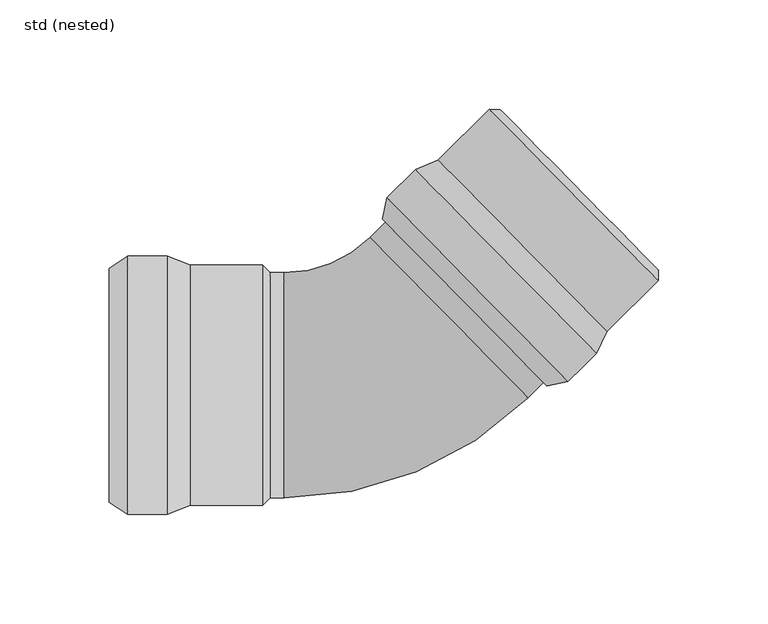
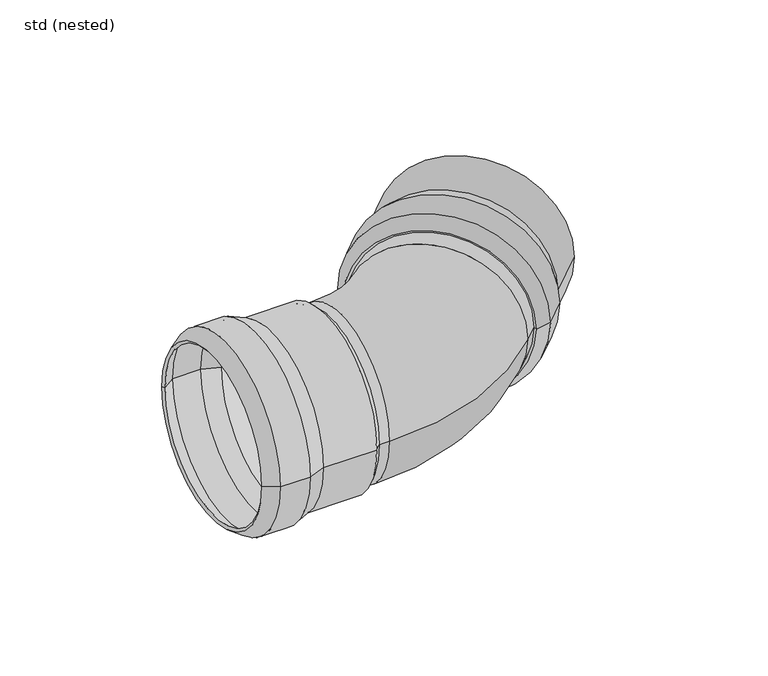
"""IFC4 building model written with IfcOpenShell, lengths in millimetres: pipe fitting geometry, ZZZ_do not use_PIF_ST_UN_GM-X pipe bend_ACO : std (nested)."""

from ifc_helpers import new_model, si_unit, point, frame, origin, place, context, project, spatial, polyline, circle_curve, ellipse_curve, trimmed, source, transform, mapped, element, save
from ifc_brep_helpers import plane_surface, cylinder_surface, revolved_surface, advanced_brep


def std_nested_e5a5243e(model_context):
    return source(origin(), model_context, "Body", "AdvancedBrep", [
        advanced_brep(
        [(15.9421163, 98.5246108, 0.0), (98.7526335, 14.4626202, 0.0), (85.78714, 1.6901506, 0.0), (2.9766229, 85.7521412, 0.0), (26.2293449, 103.0437842, 0.0), (103.4255897, 24.6809117, 0.0), (76.0144928, -0.2165133, 0.0), (0.9236002, 76.00919, 0.0), (49.7382067, 126.2026577, 0.0), (126.9344514, 47.8397851, 0.0), (54.6878149, 126.1655377, 0.0), (126.9715714, 52.7893934, 0.0), (52.1944508, 123.7092935, 0.0), (124.4782073, 50.3331492, 0.0), (27.370717, 101.3607122, 0.0), (101.7598256, 25.8473987, 0.0), (125.5308833, 49.2645646, 0.0), (51.1417747, 124.7778782, 0.0), (17.0834885, 96.8415388, 0.0), (97.0868694, 15.6291072, 0.0), (4.8094141, 84.7501948, 0.0), (84.8127951, 3.5377632, 0.0), (2.8806238, 75.5968084, 0.0), (75.6315097, 1.7464752, 0.0)],
        [
            (0, 1, circle_curve(frame((57.3473749, 56.4936155, 0.0), z_axis=(-0.7123897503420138, -0.701784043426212, 0.0), x_axis=(0.701784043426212, -0.7123897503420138, 0.0)), 59.0)),
            (1, 2),
            (2, 3, circle_curve(frame((44.3818814, 43.7211459, 0.0), z_axis=(0.7123897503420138, 0.701784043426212, 0.0), x_axis=(0.701784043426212, -0.7123897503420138, 0.0)), 59.0)),
            (3, 0),
            (1, 0, circle_curve(frame((57.3473749, 56.4936155, 0.0), z_axis=(-0.7123897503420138, -0.701784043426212, 0.0), x_axis=(0.701784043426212, -0.7123897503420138, 0.0)), 59.0)),
            (3, 2, circle_curve(frame((44.3818814, 43.7211459, 0.0), z_axis=(0.7123897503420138, 0.701784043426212, 0.0), x_axis=(0.701784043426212, -0.7123897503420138, 0.0)), 59.0)),
            (4, 5, circle_curve(frame((64.8274673, 63.862348, 0.0), z_axis=(-0.7123897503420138, -0.701784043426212, 0.0), x_axis=(0.701784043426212, -0.7123897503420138, 0.0)), 55.0)),
            (5, 1),
            (0, 4),
            (5, 4, circle_curve(frame((64.8274673, 63.862348, 0.0), z_axis=(-0.7123897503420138, -0.701784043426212, 0.0), x_axis=(0.701784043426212, -0.7123897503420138, 0.0)), 55.0)),
            (2, 6),
            (6, 7, circle_curve(frame((38.4690465, 37.8963383, 0.0), z_axis=(0.7123897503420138, 0.701784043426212, 0.0), x_axis=(0.701784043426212, -0.7123897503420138, 0.0)), 53.5)),
            (7, 3),
            (7, 6, circle_curve(frame((38.4690465, 37.8963383, 0.0), z_axis=(0.7123897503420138, 0.701784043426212, 0.0), x_axis=(0.701784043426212, -0.7123897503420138, 0.0)), 53.5)),
            (8, 9, circle_curve(frame((88.336329, 87.0212214, 0.0), z_axis=(-0.7123897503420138, -0.701784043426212, 0.0), x_axis=(0.701784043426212, -0.7123897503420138, 0.0)), 55.0)),
            (9, 5),
            (4, 8),
            (9, 8, circle_curve(frame((88.336329, 87.0212214, 0.0), z_axis=(-0.7123897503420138, -0.701784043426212, 0.0), x_axis=(0.701784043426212, -0.7123897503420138, 0.0)), 55.0)),
            (10, 11, circle_curve(frame((90.8296932, 89.4774655, 0.0), z_axis=(-0.7123897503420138, -0.701784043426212, 0.0), x_axis=(0.701784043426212, -0.7123897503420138, 0.0)), 51.5)),
            (11, 9),
            (8, 10),
            (11, 10, circle_curve(frame((90.8296932, 89.4774655, 0.0), z_axis=(-0.7123897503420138, -0.701784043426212, 0.0), x_axis=(0.701784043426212, -0.7123897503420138, 0.0)), 51.5)),
            (12, 13, circle_curve(frame((88.336329, 87.0212214, 0.0), z_axis=(-0.7123897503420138, -0.701784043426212, 0.0), x_axis=(0.701784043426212, -0.7123897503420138, 0.0)), 51.5)),
            (13, 11),
            (10, 12),
            (13, 12, circle_curve(frame((88.336329, 87.0212214, 0.0), z_axis=(-0.7123897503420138, -0.701784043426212, 0.0), x_axis=(0.701784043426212, -0.7123897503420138, 0.0)), 51.5)),
            (14, 15, circle_curve(frame((64.5652713, 63.6040554, 0.0), z_axis=(-0.7123897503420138, -0.701784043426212, 0.0), x_axis=(0.701784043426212, -0.7123897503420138, 0.0)), 53.0)),
            (15, 16),
            (16, 17, circle_curve(frame((88.336329, 87.0212214, 0.0), z_axis=(0.7123897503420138, 0.701784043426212, 0.0), x_axis=(0.701784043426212, -0.7123897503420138, 0.0)), 53.0)),
            (17, 14),
            (15, 14, circle_curve(frame((64.5652713, 63.6040554, 0.0), z_axis=(-0.7123897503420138, -0.701784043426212, 0.0), x_axis=(0.701784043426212, -0.7123897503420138, 0.0)), 53.0)),
            (17, 16, circle_curve(frame((88.336329, 87.0212214, 0.0), z_axis=(0.7123897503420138, 0.701784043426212, 0.0), x_axis=(0.701784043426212, -0.7123897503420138, 0.0)), 53.0)),
            (18, 19, circle_curve(frame((57.085179, 56.235323, 0.0), z_axis=(-0.7123897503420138, -0.701784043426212, 0.0), x_axis=(0.701784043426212, -0.7123897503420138, 0.0)), 57.0)),
            (19, 15),
            (14, 18),
            (19, 18, circle_curve(frame((57.085179, 56.235323, 0.0), z_axis=(-0.7123897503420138, -0.701784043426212, 0.0), x_axis=(0.701784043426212, -0.7123897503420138, 0.0)), 57.0)),
            (20, 21, circle_curve(frame((44.8111046, 44.143979, 0.0), z_axis=(-0.7123897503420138, -0.701784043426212, 0.0), x_axis=(0.701784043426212, -0.7123897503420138, 0.0)), 57.0)),
            (21, 19),
            (18, 20),
            (21, 20, circle_curve(frame((44.8111046, 44.143979, 0.0), z_axis=(-0.7123897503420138, -0.701784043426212, 0.0), x_axis=(0.701784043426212, -0.7123897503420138, 0.0)), 57.0)),
            (22, 23, circle_curve(frame((39.2560667, 38.6716418, 0.0), z_axis=(-0.7123897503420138, -0.701784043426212, 0.0), x_axis=(0.701784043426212, -0.7123897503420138, 0.0)), 51.8328156)),
            (23, 21),
            (20, 22),
            (23, 22, circle_curve(frame((39.2560667, 38.6716418, 0.0), z_axis=(-0.7123897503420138, -0.701784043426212, 0.0), x_axis=(0.701784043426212, -0.7123897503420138, 0.0)), 51.8328156)),
            (6, 23),
            (22, 7),
            (16, 13),
            (12, 17),
        ],
        [
            cylinder_surface(frame((40.8595332, 40.2512367, 0.0), z_axis=(0.7123897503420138, 0.701784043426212, 0.0), x_axis=(0.701784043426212, -0.7123897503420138, 0.0)), 59.0),
            revolved_surface(polyline([(98.7526335, 14.4626202, 0.0), (103.4255897, 24.6809117, 0.0)]), (40.8595332, 40.2512367, 0.0), (0.7123897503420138, 0.701784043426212, 0.0)),
            revolved_surface(polyline([(76.0144928, -0.2165133, 0.0), (85.78714, 1.6901506, 0.0)]), (40.8595332, 40.2512367, 0.0), (0.7123897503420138, 0.701784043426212, 0.0)),
            cylinder_surface(frame((40.8595332, 40.2512367, 0.0), z_axis=(0.7123897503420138, 0.701784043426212, 0.0), x_axis=(0.701784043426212, -0.7123897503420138, 0.0)), 55.0),
            revolved_surface(polyline([(126.9344514, 47.8397851, 0.0), (126.9715714, 52.7893934, 0.0)]), (40.8595332, 40.2512367, 0.0), (0.7123897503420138, 0.701784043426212, 0.0)),
            revolved_surface(polyline([(126.97157137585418, 52.789393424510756, 0.0), (124.47820723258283, 50.333149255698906, 0.0)]), (40.8595332, 40.2512367, 0.0), (0.7123897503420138, 0.701784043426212, 0.0)),
            revolved_surface(polyline([(125.53088331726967, 49.264564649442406, 0.0), (101.7598255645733, 25.84739866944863, 0.0)]), (40.8595332, 40.2512367, 0.0), (0.7123897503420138, 0.701784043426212, 0.0)),
            revolved_surface(polyline([(101.7598256, 25.8473987, 0.0), (97.0868694, 15.6291072, 0.0)]), (40.8595332, 40.2512367, 0.0), (0.7123897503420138, 0.701784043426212, 0.0)),
            revolved_surface(polyline([(97.08686943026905, 15.62910728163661, 0.0), (84.81279504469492, 3.5377632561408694, 0.0)]), (40.8595332, 40.2512367, 0.0), (0.7123897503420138, 0.701784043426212, 0.0)),
            revolved_surface(polyline([(84.8127951, 3.5377632, 0.0), (75.6315097, 1.7464752, 0.0)]), (40.8595332, 40.2512367, 0.0), (0.7123897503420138, 0.701784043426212, 0.0)),
            revolved_surface(polyline([(75.6315097, 1.7464752, 0.0), (76.0144928, -0.2165133, 0.0)]), (40.8595332, 40.2512367, 0.0), (0.7123897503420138, 0.701784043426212, 0.0)),
            plane_surface(frame((88.336329, 87.0212214, 0.0), z_axis=(-0.7123897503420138, -0.701784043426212, 0.0), x_axis=(0.701784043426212, -0.7123897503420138, 0.0))),
        ],
        [
            (0, [[1, 2, 3, 4]]),
            (0, [[5, -4, 6, -2]]),
            (1, [[7, 8, -1, 9]]),
            (1, [[10, -9, -5, -8]]),
            (2, [[-3, 11, 12, 13]]),
            (2, [[-6, -13, 14, -11]]),
            (3, [[15, 16, -7, 17]]),
            (3, [[18, -17, -10, -16]]),
            (4, [[19, 20, -15, 21]]),
            (4, [[22, -21, -18, -20]]),
            (5, [[23, 24, -19, 25]]),
            (5, [[26, -25, -22, -24]]),
            (6, [[27, 28, 29, 30]]),
            (6, [[31, -30, 32, -28]]),
            (7, [[33, 34, -27, 35]]),
            (7, [[36, -35, -31, -34]]),
            (8, [[37, 38, -33, 39]]),
            (8, [[40, -39, -36, -38]]),
            (9, [[41, 42, -37, 43]]),
            (9, [[44, -43, -40, -42]]),
            (10, [[-12, 45, -41, 46]]),
            (10, [[-14, -46, -44, -45]]),
            (11, [[-29, 47, -23, 48]]),
            (11, [[-32, -48, -26, -47]]),
        ],
    ),
        advanced_brep(
        [(-97.5, 59.0, 0.0), (-97.5, -59.0, 0.0), (-115.7, -59.0, 0.0), (-115.7, 59.0, 0.0), (-87.0, 55.0, 0.0), (-87.0, -55.0, 0.0), (-124.0, -53.5, 0.0), (-124.0, 53.5, 0.0), (-54.0, 55.0, 0.0), (-54.0, -55.0, 0.0), (-50.5, 51.5, 0.0), (-50.5, -51.5, 0.0), (-54.0, 51.5, 0.0), (-54.0, -51.5, 0.0), (-87.3680513, 53.0, 0.0), (-87.3680513, -53.0, 0.0), (-54.0, -53.0, 0.0), (-54.0, 53.0, 0.0), (-97.8680513, 57.0, 0.0), (-97.8680513, -57.0, 0.0), (-115.0974883, 57.0, 0.0), (-115.0974883, -57.0, 0.0), (-122.8952393, 51.8328156, 0.0), (-122.8952393, -51.8328156, 0.0)],
        [
            (0, 1, circle_curve(frame((-97.5, 0.0, 0.0), z_axis=(-1.0, 0.0, 0.0), x_axis=(0.0, -1.0, 0.0)), 59.0)),
            (1, 2),
            (2, 3, circle_curve(frame((-115.7, 0.0, 0.0), z_axis=(1.0, 0.0, 0.0), x_axis=(0.0, -1.0, 0.0)), 59.0)),
            (3, 0),
            (1, 0, circle_curve(frame((-97.5, 0.0, 0.0), z_axis=(-1.0, 0.0, 0.0), x_axis=(0.0, -1.0, 0.0)), 59.0)),
            (3, 2, circle_curve(frame((-115.7, 0.0, 0.0), z_axis=(1.0, 0.0, 0.0), x_axis=(0.0, -1.0, 0.0)), 59.0)),
            (4, 5, circle_curve(frame((-87.0, 0.0, 0.0), z_axis=(-1.0, 0.0, 0.0), x_axis=(0.0, -1.0, 0.0)), 55.0)),
            (5, 1),
            (0, 4),
            (5, 4, circle_curve(frame((-87.0, 0.0, 0.0), z_axis=(-1.0, 0.0, 0.0), x_axis=(0.0, -1.0, 0.0)), 55.0)),
            (2, 6),
            (6, 7, circle_curve(frame((-124.0, 0.0, 0.0), z_axis=(1.0, 0.0, 0.0), x_axis=(0.0, -1.0, 0.0)), 53.5)),
            (7, 3),
            (7, 6, circle_curve(frame((-124.0, 0.0, 0.0), z_axis=(1.0, 0.0, 0.0), x_axis=(0.0, -1.0, 0.0)), 53.5)),
            (8, 9, circle_curve(frame((-54.0, 0.0, 0.0), z_axis=(-1.0, 0.0, 0.0), x_axis=(0.0, -1.0, 0.0)), 55.0)),
            (9, 5),
            (4, 8),
            (9, 8, circle_curve(frame((-54.0, 0.0, 0.0), z_axis=(-1.0, 0.0, 0.0), x_axis=(0.0, -1.0, 0.0)), 55.0)),
            (10, 11, circle_curve(frame((-50.5, 0.0, 0.0), z_axis=(-1.0, 0.0, 0.0), x_axis=(0.0, -1.0, 0.0)), 51.5)),
            (11, 9),
            (8, 10),
            (11, 10, circle_curve(frame((-50.5, 0.0, 0.0), z_axis=(-1.0, 0.0, 0.0), x_axis=(0.0, -1.0, 0.0)), 51.5)),
            (12, 13, circle_curve(frame((-54.0, 0.0, 0.0), z_axis=(-1.0, 0.0, 0.0), x_axis=(0.0, -1.0, 0.0)), 51.5)),
            (13, 11),
            (10, 12),
            (13, 12, circle_curve(frame((-54.0, 0.0, 0.0), z_axis=(-1.0, 0.0, 0.0), x_axis=(0.0, -1.0, 0.0)), 51.5)),
            (14, 15, circle_curve(frame((-87.3680513, 0.0, 0.0), z_axis=(-1.0, 0.0, 0.0), x_axis=(0.0, -1.0, 0.0)), 53.0)),
            (15, 16),
            (16, 17, circle_curve(frame((-54.0, 0.0, 0.0), z_axis=(1.0, 0.0, 0.0), x_axis=(0.0, -1.0, 0.0)), 53.0)),
            (17, 14),
            (15, 14, circle_curve(frame((-87.3680513, 0.0, 0.0), z_axis=(-1.0, 0.0, 0.0), x_axis=(0.0, -1.0, 0.0)), 53.0)),
            (17, 16, circle_curve(frame((-54.0, 0.0, 0.0), z_axis=(1.0, 0.0, 0.0), x_axis=(0.0, -1.0, 0.0)), 53.0)),
            (18, 19, circle_curve(frame((-97.8680513, 0.0, 0.0), z_axis=(-1.0, 0.0, 0.0), x_axis=(0.0, -1.0, 0.0)), 57.0)),
            (19, 15),
            (14, 18),
            (19, 18, circle_curve(frame((-97.8680513, 0.0, 0.0), z_axis=(-1.0, 0.0, 0.0), x_axis=(0.0, -1.0, 0.0)), 57.0)),
            (20, 21, circle_curve(frame((-115.0974883, 0.0, 0.0), z_axis=(-1.0, 0.0, 0.0), x_axis=(0.0, -1.0, 0.0)), 57.0)),
            (21, 19),
            (18, 20),
            (21, 20, circle_curve(frame((-115.0974883, 0.0, 0.0), z_axis=(-1.0, 0.0, 0.0), x_axis=(0.0, -1.0, 0.0)), 57.0)),
            (22, 23, circle_curve(frame((-122.8952393, 0.0, 0.0), z_axis=(-1.0, 0.0, 0.0), x_axis=(0.0, -1.0, 0.0)), 51.8328156)),
            (23, 21),
            (20, 22),
            (23, 22, circle_curve(frame((-122.8952393, 0.0, 0.0), z_axis=(-1.0, 0.0, 0.0), x_axis=(0.0, -1.0, 0.0)), 51.8328156)),
            (6, 23),
            (22, 7),
            (16, 13),
            (12, 17),
        ],
        [
            cylinder_surface(frame((-120.6444117, 0.0, 0.0), z_axis=(1.0, 0.0, 0.0), x_axis=(0.0, -1.0, 0.0)), 59.0),
            revolved_surface(polyline([(-97.5, -59.0, 0.0), (-87.0, -55.0, 0.0)]), (-120.6444117, 0.0, 0.0), (1.0, 0.0, 0.0)),
            revolved_surface(polyline([(-124.0, -53.5, 0.0), (-115.7, -59.0, 0.0)]), (-120.6444117, 0.0, 0.0), (1.0, 0.0, 0.0)),
            cylinder_surface(frame((-120.6444117, 0.0, 0.0), z_axis=(1.0, 0.0, 0.0), x_axis=(0.0, -1.0, 0.0)), 55.0),
            revolved_surface(polyline([(-54.0, -55.0, 0.0), (-50.5, -51.5, 0.0)]), (-120.6444117, 0.0, 0.0), (1.0, 0.0, 0.0)),
            revolved_surface(polyline([(-50.5, -51.5, 0.0), (-54.0, -51.5, 0.0)]), (-120.6444117, 0.0, 0.0), (1.0, 0.0, 0.0)),
            revolved_surface(polyline([(-54.0, -53.0, 0.0), (-87.3680513, -53.0, 0.0)]), (-120.6444117, 0.0, 0.0), (1.0, 0.0, 0.0)),
            revolved_surface(polyline([(-87.3680513, -53.0, 0.0), (-97.8680513, -57.0, 0.0)]), (-120.6444117, 0.0, 0.0), (1.0, 0.0, 0.0)),
            revolved_surface(polyline([(-97.8680513, -57.0, 0.0), (-115.0974883, -57.0, 0.0)]), (-120.6444117, 0.0, 0.0), (1.0, 0.0, 0.0)),
            revolved_surface(polyline([(-115.0974883, -57.0, 0.0), (-122.8952393, -51.8328156, 0.0)]), (-120.6444117, 0.0, 0.0), (1.0, 0.0, 0.0)),
            revolved_surface(polyline([(-122.8952393, -51.8328156, 0.0), (-124.0, -53.5, 0.0)]), (-120.6444117, 0.0, 0.0), (1.0, 0.0, 0.0)),
            plane_surface(frame((-54.0, 0.0, 0.0), z_axis=(-1.0, 0.0, 0.0), x_axis=(0.0, -1.0, 0.0))),
        ],
        [
            (0, [[1, 2, 3, 4]]),
            (0, [[5, -4, 6, -2]]),
            (1, [[7, 8, -1, 9]]),
            (1, [[10, -9, -5, -8]]),
            (2, [[-3, 11, 12, 13]]),
            (2, [[-6, -13, 14, -11]]),
            (3, [[15, 16, -7, 17]]),
            (3, [[18, -17, -10, -16]]),
            (4, [[19, 20, -15, 21]]),
            (4, [[22, -21, -18, -20]]),
            (5, [[23, 24, -19, 25]]),
            (5, [[26, -25, -22, -24]]),
            (6, [[27, 28, 29, 30]]),
            (6, [[31, -30, 32, -28]]),
            (7, [[33, 34, -27, 35]]),
            (7, [[36, -35, -31, -34]]),
            (8, [[37, 38, -33, 39]]),
            (8, [[40, -39, -36, -38]]),
            (9, [[41, 42, -37, 43]]),
            (9, [[44, -43, -40, -42]]),
            (10, [[-12, 45, -41, 46]]),
            (10, [[-14, -46, -44, -45]]),
            (11, [[-29, 47, -23, 48]]),
            (11, [[-32, -48, -26, -47]]),
        ],
    ),
        advanced_brep(
        [(-4.7967292, 67.5665701, 0.0), (-44.0, 51.5, 0.0), (-44.0, -51.5, 0.0), (67.4870273, -5.8095742, 0.0), (31.345149, 30.8784979, 51.5), (31.345149, 30.8784979, -51.5), (-54.0, -51.5, 0.0), (-54.0, 51.5, 0.0), (124.4782073, 50.3331492, 0.0), (52.1944508, 123.7092935, 0.0)],
        [
            (0, 1, circle_curve(frame((-44.0, 107.3623, 0.0), z_axis=(0.0, 0.0, -1.0), x_axis=(0.0, -1.0, 0.0)), 55.8623)),
            (1, 2, circle_curve(frame((-44.0, 0.0, 0.0), z_axis=(1.0, 0.0, 0.0), x_axis=(0.0, 1.0, 0.0)), 51.5)),
            (2, 3, circle_curve(frame((-44.0, 107.3623, 0.0), z_axis=(0.0, 0.0, 1.0), x_axis=(0.0, -1.0, 0.0)), 158.8623)),
            (3, 4, circle_curve(frame((31.345149, 30.8784979, 0.0), z_axis=(-0.712389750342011, -0.7017840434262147, 0.0), x_axis=(-0.7017840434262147, 0.712389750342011, 0.0)), 51.5)),
            (4, 0, circle_curve(frame((31.345149, 30.8784979, 0.0), z_axis=(-0.712389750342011, -0.7017840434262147, 0.0), x_axis=(-0.7017840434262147, 0.712389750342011, 0.0)), 51.5)),
            (0, 5, circle_curve(frame((31.345149, 30.8784979, 0.0), z_axis=(-0.712389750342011, -0.7017840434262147, 0.0), x_axis=(-0.7017840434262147, 0.712389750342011, 0.0)), 51.5)),
            (5, 3, circle_curve(frame((31.345149, 30.8784979, 0.0), z_axis=(-0.7123897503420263, -0.7017840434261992, 0.0), x_axis=(-0.7017840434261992, 0.7123897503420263, 0.0)), 51.5)),
            (2, 1, circle_curve(frame((-44.0, 0.0, 0.0), z_axis=(1.0, 0.0, 0.0), x_axis=(0.0, 1.0, 0.0)), 51.5)),
            (6, 7, circle_curve(frame((-54.0, 0.0, 0.0), z_axis=(-1.0, 0.0, 0.0), x_axis=(0.0, 1.0, 0.0)), 51.5)),
            (7, 6, circle_curve(frame((-54.0, 0.0, 0.0), z_axis=(-1.0, 0.0, 0.0), x_axis=(0.0, 1.0, 0.0)), 51.5)),
            (7, 1),
            (2, 6),
            (8, 9, circle_curve(frame((88.336329, 87.0212214, 0.0), z_axis=(0.7123897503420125, 0.7017840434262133, 0.0), x_axis=(-0.7017840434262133, 0.7123897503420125, 0.0)), 51.5)),
            (9, 8, circle_curve(frame((88.336329, 87.0212214, 0.0), z_axis=(0.7123897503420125, 0.7017840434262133, 0.0), x_axis=(-0.7017840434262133, 0.7123897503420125, 0.0)), 51.5)),
            (9, 0),
            (3, 8),
        ],
        [
            revolved_surface(trimmed(ellipse_curve(frame((-44.0, 0.0, 0.0), z_axis=(-1.0, 0.0, 0.0), x_axis=(0.0, 1.0, 0.0)), 51.5, 51.5), [point((-44.0, -51.5, 0.0))], [point((-44.0, 51.5, 0.0))], True, "CARTESIAN"), (-44.0, 107.3623, 0.0), (0.0, 0.0, 1.0)),
            revolved_surface(trimmed(ellipse_curve(frame((-44.0, 0.0, 0.0), z_axis=(-1.0, 0.0, 0.0), x_axis=(0.0, 1.0, 0.0)), 51.5, 51.5), [point((-44.0, 51.5, 0.0))], [point((-44.0, -51.5, 0.0))], True, "CARTESIAN"), (-44.0, 107.3623, 0.0), (0.0, 0.0, 1.0)),
            plane_surface(frame((-54.0, 51.5, 0.0), z_axis=(-1.0, 0.0, 0.0), x_axis=(0.0, 0.0, -1.0))),
            cylinder_surface(frame((-54.0, 0.0, 0.0), z_axis=(1.0, 0.0, 0.0), x_axis=(0.0, 1.0, 0.0)), 51.5),
            plane_surface(frame((88.336329, 87.0212214, 0.0), z_axis=(0.7123897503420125, 0.7017840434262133, 0.0), x_axis=(0.0, 0.0, 1.0))),
            cylinder_surface(frame((31.345149, 30.8784979, 0.0), z_axis=(-0.7123897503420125, -0.7017840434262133, 0.0), x_axis=(-0.7017840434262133, 0.7123897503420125, 0.0)), 51.5),
        ],
        [
            (0, [[1, 2, 3, 4, 5]]),
            (1, [[-1, 6, 7, -3, 8]]),
            (2, [[9, 10]]),
            (3, [[-10, 11, -8, 12]]),
            (3, [[-9, -12, -2, -11]]),
            (4, [[13, 14]]),
            (5, [[-14, 15, -5, -4, 16]]),
            (5, [[-13, -16, -7, -6, -15]]),
        ],
    ),
    ])


if __name__ == "__main__":
    model = new_model("IFC4")
    model_context = context("Model", 3, world=origin())
    ifc_project = project(units=[si_unit("LENGTHUNIT", "METRE", prefix="MILLI")], contexts=[model_context])
    site = spatial("IfcSite", under=ifc_project)
    building = spatial("IfcBuilding", under=site)
    placement = place(None, origin())
    std_nested_shape = std_nested_e5a5243e(model_context)
    element("IfcPipeFitting", 1, ObjectType="ZZZ_do not use_PIF_ST_UN_GM-X pipe bend_ACO : std (nested)", at=placement, inside=building, context=model_context, shape_type="MappedRepresentation", body=[
        mapped(std_nested_shape, transform((0.0, 0.0, 0.0), x_axis=(1.0, 0.0, 0.0), y_axis=(0.0, 1.0, 0.0), z_axis=(0.0, 0.0, 1.0))),
    ])
    save(model, "model.ifc")
